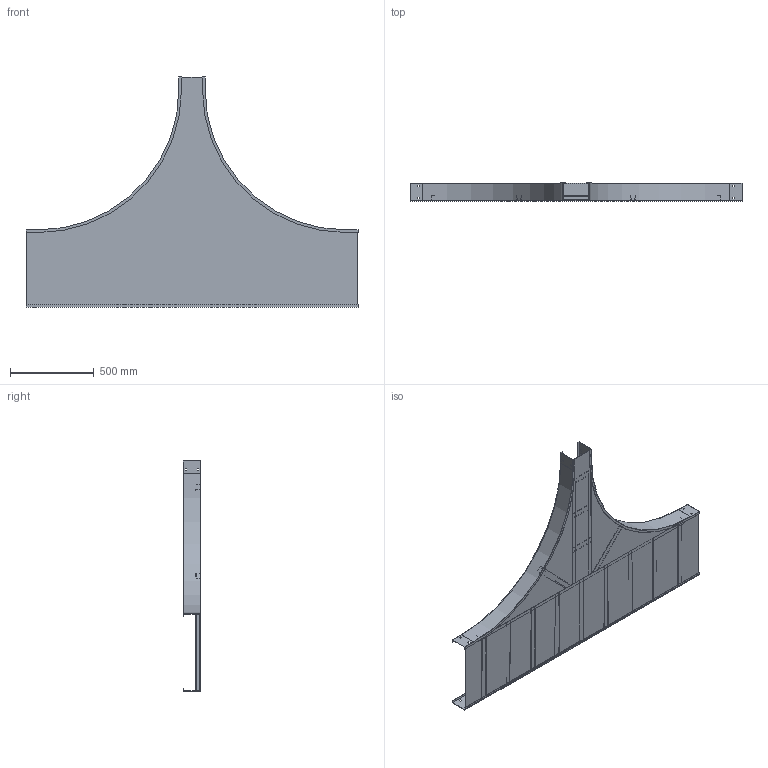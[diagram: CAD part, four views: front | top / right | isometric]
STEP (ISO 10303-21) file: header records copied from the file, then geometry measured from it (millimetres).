
FILE_DESCRIPTION((''),'2;1');
FILE_NAME('AUF41806SRT36_ASM','2010-02-12T',('erouzier'),(''),'PRO/ENGINEER BY PARAMETRIC TECHNOLOGY CORPORATION, 2008510','PRO/ENGINEER BY PARAMETRIC TECHNOLOGY CORPORATION, 2008510','');
FILE_SCHEMA(('CONFIG_CONTROL_DESIGN'));
Length unit declared in the file: inch
Products named in the file (21): CDS001319-4-90-33-I; CDS013841-4-78; CDS000495_GEN_AF9; CDS002159L18_AF21; CDS002159L18_AF22; CDS002159L18_AF23; CDS002159L18_AF24; CDS002159L18_AF25; CDS002159L18_AF26; CDS002159L18_AF27; CDS002159L18; CDS002159L18_AF28; CDS000495_GEN_AF10; CDS000495_GEN_AF11; CDS002159L18_AF19; CDS002159L18_AF20; CDS002159L6_AF3; CDS002159L6_AF4; CDS002159L6_AF5; CDS005002-18-36-6; AUF41806SRT36_ASM
Assembly tree (21 placements, depth 2):
  AUF41806SRT36_ASM
    CDS001319-4-90-33-I  x2
    CDS013841-4-78
    CDS000495_GEN_AF9
    CDS002159L18_AF21
    CDS002159L18_AF22
    CDS002159L18_AF23
    CDS002159L18_AF24
    CDS002159L18_AF25
    CDS002159L18_AF26
    CDS002159L18_AF27
    CDS002159L18
    CDS002159L18_AF28
    CDS000495_GEN_AF10
    CDS000495_GEN_AF11
    CDS002159L18_AF19
    CDS002159L18_AF20
    CDS002159L6_AF3
    CDS002159L6_AF4
    CDS002159L6_AF5
    CDS005002-18-36-6
Bounding box: 1985.77 x 106.05 x 1376.17 mm (x, y, z)
Volume: 4119569.7 mm3; surface area: 5692929.4 mm2
Topology: 21 solids, 21 shells, 556 faces, 1542 edges, 1028 vertices
Faces by surface type: plane 392, cylinder 164
Entity records: 17275 total; most frequent: CARTESIAN_POINT 3146, ORIENTED_EDGE 2892, DIRECTION 2850, EDGE_CURVE 1446, VECTOR 1126, LINE 1126, VERTEX_POINT 964, AXIS2_PLACEMENT_3D 862
